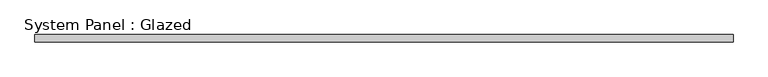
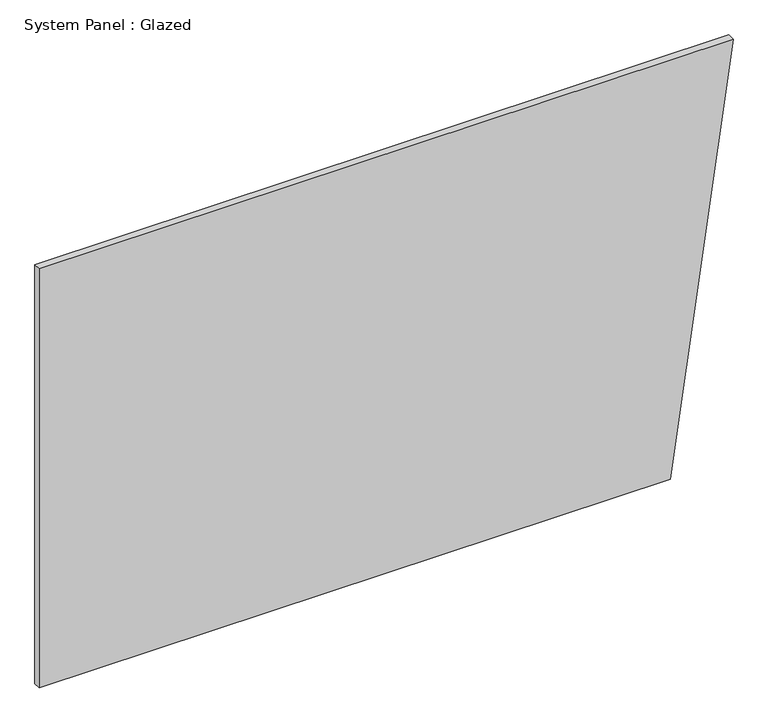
"""IFC4 building model written with IfcOpenShell, lengths in millimetres: plate geometry, System Panel : Glazed."""

from ifc_helpers import new_model, si_unit, frame, origin, place, context, project, spatial, polyline, outline, extrude, source, transform, mapped, element, save


def system_panel_glazed_f17f3ffc(model_context):
    return source(origin(), model_context, "Body", "SweptSolid", [
        extrude(outline(polyline([(0.0, -1193.749453), (0.0, 976.7040979), (1524.0, 1193.749453), (1524.0, -1193.749453), (0.0, -1193.749453)])), frame((0.0, 19.05, 0.0), z_axis=(0.0, 1.0, 0.0), x_axis=(0.0, 0.0, 1.0)), (0.0, 0.0, 1.0), 25.4),
    ])


if __name__ == "__main__":
    model = new_model("IFC4")
    model_context = context("Model", 3, world=origin())
    ifc_project = project(units=[si_unit("LENGTHUNIT", "METRE", prefix="MILLI")], contexts=[model_context])
    site = spatial("IfcSite", under=ifc_project)
    building = spatial("IfcBuilding", under=site)
    placement = place(None, origin())
    system_panel_glazed_shape = system_panel_glazed_f17f3ffc(model_context)
    element("IfcPlate", 1, ObjectType="System Panel : Glazed", at=placement, inside=building, context=model_context, shape_type="MappedRepresentation", body=[
        mapped(system_panel_glazed_shape, transform((0.0, 0.0, 0.0), x_axis=(1.0, 0.0, 0.0), y_axis=(0.0, 1.0, 0.0), z_axis=(0.0, 0.0, 1.0))),
    ])
    save(model, "model.ifc")
